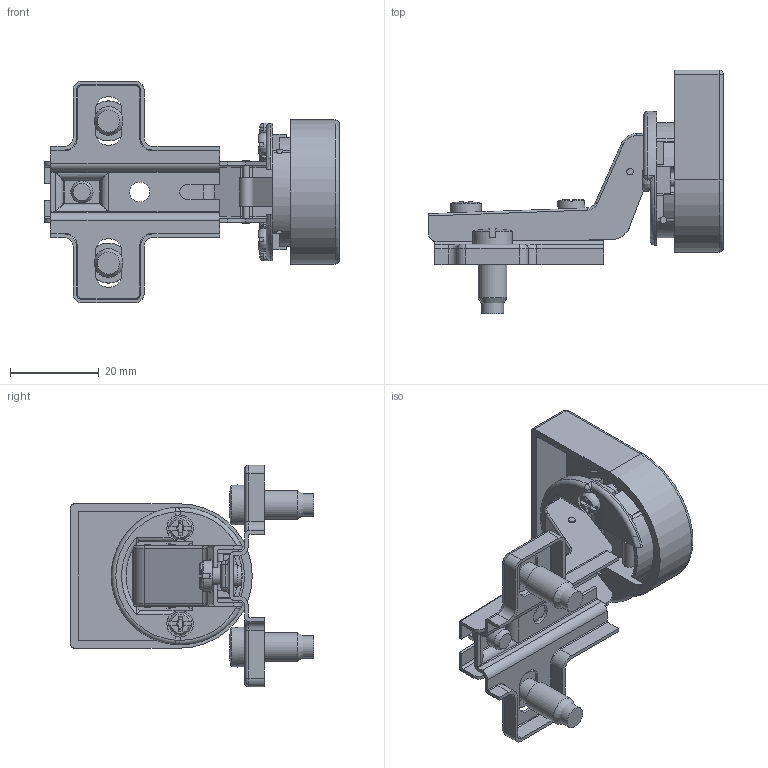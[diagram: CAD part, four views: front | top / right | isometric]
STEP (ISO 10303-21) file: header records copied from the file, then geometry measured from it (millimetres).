
FILE_DESCRIPTION(/* description */ (''),/* implementation_level */ '2;1');
FILE_NAME(/* name */ 'W:\R&D\pub\Katalog techniczny\bryły 3D\ZP-CIG-07UZE.stp',/* time_stamp */ '2016-09-14T09:29:31+02:00',/* author */ ('tomaszw'),/* organization */ (''),/* preprocessor_version */ 'ST-DEVELOPER v16.1',/* originating_system */ 'Autodesk Inventor 2016',/* authorisation */ '');
FILE_SCHEMA (('AUTOMOTIVE_DESIGN { 1 0 10303 214 3 1 1 }'));
Length unit declared in the file: millimetre
Products named in the file (14): ZP-CIG-0-P; ZP-CIG-07; ZP-CIG-0_2; ZP-CIG-0_1; ZP-CIG-0_4; ZP-CIG-0_3; ZP-CIG-0_Pin2; ZP-CIG-0_Pin1; Euro; Wkret4x6; ZP-CIG-0-U-E; ZP-CIG-0-os; WkretM3x12; ZP-CIG-07(9)O(U)ZE(BE)
Assembly tree (17 placements, depth 2):
  ZP-CIG-07(9)O(U)ZE(BE)
    ZP-CIG-0-P
    ZP-CIG-07
    ZP-CIG-0_2
    ZP-CIG-0_1
    ZP-CIG-0_4
    ZP-CIG-0_3
    ZP-CIG-0_Pin2  x2
    ZP-CIG-0_Pin1  x2
    Euro  x2
    Wkret4x6
    ZP-CIG-0-U-E
    ZP-CIG-0-os
    WkretM3x12  x2
Bounding box: 66.42 x 54.85 x 50 mm (x, y, z)
Volume: 13406.8 mm3; surface area: 21055.6 mm2
Topology: 19 solids, 19 shells, 592 faces, 1491 edges, 936 vertices
Faces by surface type: plane 279, cylinder 220, torus 33, bspline 26, sphere 18, cone 16
Full cylindrical faces by diameter (mm): 1.5 x18, 2 x2, 2.5 x2, 3 x2, 3.5 x1, 4 x1, 4.5 x1, 5 x3, 5.5 x2, 6 x3, 6.5 x3, 7 x1, 9 x2, 28 x1, 29.5 x1
Entity records: 17315 total; most frequent: CARTESIAN_POINT 3545, DIRECTION 2905, ORIENTED_EDGE 2644, EDGE_CURVE 1320, AXIS2_PLACEMENT_3D 1091, VERTEX_POINT 853, LINE 723, VECTOR 723
